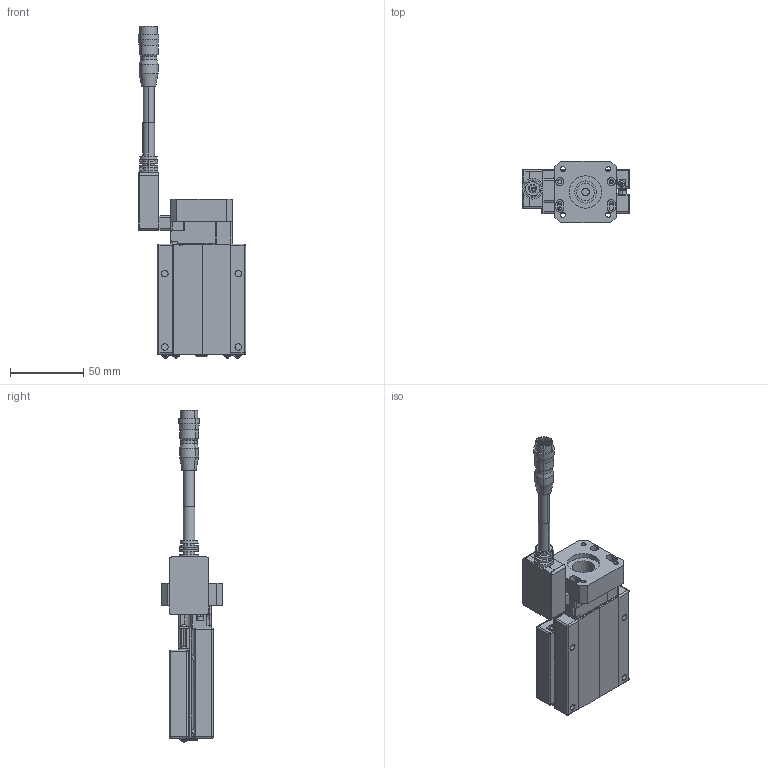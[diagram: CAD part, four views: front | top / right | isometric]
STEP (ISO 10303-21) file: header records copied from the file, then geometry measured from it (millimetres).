
FILE_DESCRIPTION (( 'STEP AP203' ), '1' );
FILE_NAME ('CXS6030(42框無馬達).STEP', '2023-12-25T07:14:48', ( '' ), ( '' ), 'SwSTEP 2.0', 'SolidWorks 2019', '' );
FILE_SCHEMA (( 'CONFIG_CONTROL_DESIGN' ));
Length unit declared in the file: millimetre
Products named in the file (5): Group1^CXS6030(42框無馬達)_defeature_GMT; CXS50-G42_GMT; HR10A-10J-12P; Group2^CXS6030(42框無馬達)_defeature_GMT; CXS6030(42框無馬達)
Assembly tree (4 placements, depth 2):
  CXS6030(42框無馬達)
    Group1^CXS6030(42框無馬達)_defeature_GMT
    Group2^CXS6030(42框無馬達)_defeature_GMT
    HR10A-10J-12P
    CXS50-G42_GMT
Bounding box: 73 x 42 x 225.93 mm (x, y, z)
Volume: 138371.4 mm3; surface area: 63582.1 mm2
Topology: 8 solids, 8 shells, 1687 faces, 4331 edges, 2759 vertices
Faces by surface type: plane 958, cylinder 435, cone 123, sphere 102, bspline 35, torus 34
Entity records: 53661 total; most frequent: CARTESIAN_POINT 11460, DIRECTION 8885, ORIENTED_EDGE 8610, EDGE_CURVE 4305, AXIS2_PLACEMENT_3D 3164, VERTEX_POINT 2759, LINE 2557, VECTOR 2557
